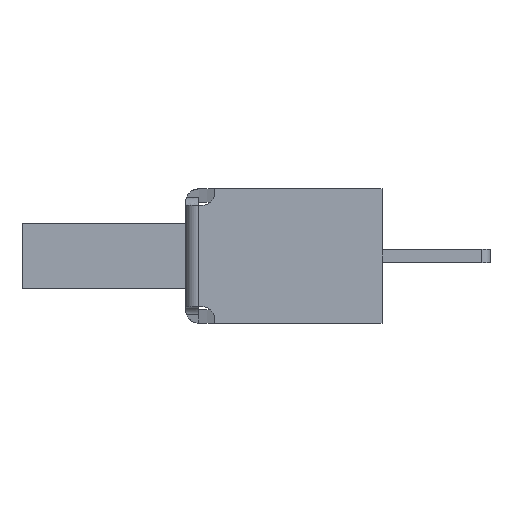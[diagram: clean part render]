
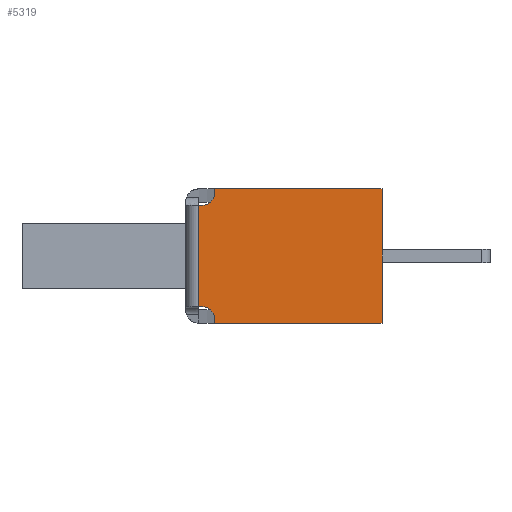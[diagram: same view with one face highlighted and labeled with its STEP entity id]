
A CAD part, left-side view. The second image highlights one B-rep face of the part: STEP entity #5319.
In plain terms, the highlighted planar face has unit normal (-1, 0, 0).
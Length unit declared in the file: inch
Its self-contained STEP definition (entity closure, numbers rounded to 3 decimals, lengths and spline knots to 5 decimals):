
#11 = CARTESIAN_POINT ( 'NONE',  ( 0.67302, -0.44916, 0.06102 ) ) ;
#198 = EDGE_CURVE ( 'NONE', #3820, #5632, #2388, .T. ) ;
#266 = CARTESIAN_POINT ( 'NONE',  ( 0.67302, -0.44916, -0.08071 ) ) ;
#322 = EDGE_CURVE ( 'NONE', #5353, #6336, #5228, .T. ) ;
#336 = CARTESIAN_POINT ( 'NONE',  ( 0.67302, -0.66963, -0.08071 ) ) ;
#345 = VECTOR ( 'NONE', #1707, 39.37008 ) ;
#370 = CARTESIAN_POINT ( 'NONE',  ( 0.67302, -0.46865, -0.06102 ) ) ;
#408 = ORIENTED_EDGE ( 'NONE', *, *, #322, .F. ) ;
#484 = VECTOR ( 'NONE', #5415, 39.37008 ) ;
#488 = EDGE_CURVE ( 'NONE', #4599, #4192, #1396, .T. ) ;
#639 = CARTESIAN_POINT ( 'NONE',  ( 0.67302, -0.4529, 0.07677 ) ) ;
#686 = VECTOR ( 'NONE', #1505, 39.37008 ) ;
#692 = CARTESIAN_POINT ( 'NONE',  ( 0.67302, -0.46865, -0.08071 ) ) ;
#879 = CARTESIAN_POINT ( 'NONE',  ( 0.67302, -0.4529, 0.06102 ) ) ;
#907 = CARTESIAN_POINT ( 'NONE',  ( 0.67302, -0.46865, 0.07677 ) ) ;
#1030 = ORIENTED_EDGE ( 'NONE', *, *, #198, .T. ) ;
#1176 = DIRECTION ( 'NONE',  ( 0., 0., 1. ) ) ;
#1203 = DIRECTION ( 'NONE',  ( 0., 1., 0. ) ) ;
#1274 = DIRECTION ( 'NONE',  ( 0., 0., 1. ) ) ;
#1340 = LINE ( 'NONE', #1715, #2939 ) ;
#1373 = ORIENTED_EDGE ( 'NONE', *, *, #5992, .T. ) ;
#1396 = CIRCLE ( 'NONE', #5175, 0.01575 ) ;
#1412 = VECTOR ( 'NONE', #2065, 39.37008 ) ;
#1442 = CARTESIAN_POINT ( 'NONE',  ( 0.67302, -0.44916, -0.06102 ) ) ;
#1491 = PLANE ( 'NONE',  #2203 ) ;
#1502 = CARTESIAN_POINT ( 'NONE',  ( 0.67302, -0.44916, 0.08071 ) ) ;
#1505 = DIRECTION ( 'NONE',  ( 0., 0., -1. ) ) ;
#1524 = VECTOR ( 'NONE', #1176, 39.37008 ) ;
#1662 = LINE ( 'NONE', #1727, #484 ) ;
#1664 = AXIS2_PLACEMENT_3D ( 'NONE', #6422, #6324, #4230 ) ;
#1675 = EDGE_CURVE ( 'NONE', #2103, #4192, #3084, .T. ) ;
#1683 = CARTESIAN_POINT ( 'NONE',  ( 0.67302, -0.66963, 0.08071 ) ) ;
#1697 = CARTESIAN_POINT ( 'NONE',  ( 0.67302, -0.46865, 0.08071 ) ) ;
#1707 = DIRECTION ( 'NONE',  ( 0., -1., 0. ) ) ;
#1715 = CARTESIAN_POINT ( 'NONE',  ( 0.67302, -0.46865, 0.06102 ) ) ;
#1727 = CARTESIAN_POINT ( 'NONE',  ( 0.67302, -0.46865, -0.06102 ) ) ;
#1890 = VERTEX_POINT ( 'NONE', #1442 ) ;
#2065 = DIRECTION ( 'NONE',  ( 0., -1., 0. ) ) ;
#2103 = VERTEX_POINT ( 'NONE', #6406 ) ;
#2201 = ORIENTED_EDGE ( 'NONE', *, *, #3298, .T. ) ;
#2203 = AXIS2_PLACEMENT_3D ( 'NONE', #3557, #3057, #5615 ) ;
#2283 = DIRECTION ( 'NONE',  ( 1., 0., 0. ) ) ;
#2388 = LINE ( 'NONE', #370, #4961 ) ;
#2419 = CIRCLE ( 'NONE', #1664, 0.01575 ) ;
#2421 = DIRECTION ( 'NONE',  ( 0., 0., -1. ) ) ;
#2555 = ORIENTED_EDGE ( 'NONE', *, *, #4430, .F. ) ;
#2939 = VECTOR ( 'NONE', #1274, 39.37008 ) ;
#3057 = DIRECTION ( 'NONE',  ( 1., 0., 0. ) ) ;
#3084 = LINE ( 'NONE', #11, #1412 ) ;
#3116 = ORIENTED_EDGE ( 'NONE', *, *, #3604, .T. ) ;
#3298 = EDGE_CURVE ( 'NONE', #4532, #6336, #4411, .T. ) ;
#3486 = ORIENTED_EDGE ( 'NONE', *, *, #5385, .F. ) ;
#3557 = CARTESIAN_POINT ( 'NONE',  ( 0.67302, -0.44916, 0.08071 ) ) ;
#3569 = VERTEX_POINT ( 'NONE', #5127 ) ;
#3604 = EDGE_CURVE ( 'NONE', #5632, #4532, #5389, .T. ) ;
#3820 = VERTEX_POINT ( 'NONE', #4502 ) ;
#3965 = CARTESIAN_POINT ( 'NONE',  ( 0.67302, -0.66963, 0.08071 ) ) ;
#4192 = VERTEX_POINT ( 'NONE', #879 ) ;
#4230 = DIRECTION ( 'NONE',  ( 0., 1., 0. ) ) ;
#4411 = LINE ( 'NONE', #1683, #1524 ) ;
#4430 = EDGE_CURVE ( 'NONE', #4599, #5353, #1340, .T. ) ;
#4502 = CARTESIAN_POINT ( 'NONE',  ( 0.67302, -0.46865, -0.07677 ) ) ;
#4532 = VERTEX_POINT ( 'NONE', #336 ) ;
#4587 = LINE ( 'NONE', #6129, #686 ) ;
#4599 = VERTEX_POINT ( 'NONE', #907 ) ;
#4603 = EDGE_CURVE ( 'NONE', #2103, #1890, #4587, .T. ) ;
#4611 = ORIENTED_EDGE ( 'NONE', *, *, #4603, .T. ) ;
#4650 = DIRECTION ( 'NONE',  ( 0., -1., 0. ) ) ;
#4961 = VECTOR ( 'NONE', #2421, 39.37008 ) ;
#5091 = ORIENTED_EDGE ( 'NONE', *, *, #488, .T. ) ;
#5127 = CARTESIAN_POINT ( 'NONE',  ( 0.67302, -0.4529, -0.06102 ) ) ;
#5175 = AXIS2_PLACEMENT_3D ( 'NONE', #639, #2283, #1203 ) ;
#5181 = VECTOR ( 'NONE', #4650, 39.37008 ) ;
#5228 = LINE ( 'NONE', #1502, #5181 ) ;
#5319 = ADVANCED_FACE ( 'NONE', ( #6114 ), #1491, .F. ) ;
#5353 = VERTEX_POINT ( 'NONE', #1697 ) ;
#5385 = EDGE_CURVE ( 'NONE', #3569, #1890, #1662, .T. ) ;
#5389 = LINE ( 'NONE', #266, #345 ) ;
#5415 = DIRECTION ( 'NONE',  ( 0., 1., 0. ) ) ;
#5615 = DIRECTION ( 'NONE',  ( 0., -1., 0. ) ) ;
#5632 = VERTEX_POINT ( 'NONE', #692 ) ;
#5794 = EDGE_LOOP ( 'NONE', ( #3116, #2201, #408, #2555, #5091, #6528, #4611, #3486, #1373, #1030 ) ) ;
#5992 = EDGE_CURVE ( 'NONE', #3569, #3820, #2419, .T. ) ;
#6114 = FACE_OUTER_BOUND ( 'NONE', #5794, .T. ) ;
#6129 = CARTESIAN_POINT ( 'NONE',  ( 0.67302, -0.44916, 0.08071 ) ) ;
#6324 = DIRECTION ( 'NONE',  ( 1., 0., 0. ) ) ;
#6336 = VERTEX_POINT ( 'NONE', #3965 ) ;
#6406 = CARTESIAN_POINT ( 'NONE',  ( 0.67302, -0.44916, 0.06102 ) ) ;
#6422 = CARTESIAN_POINT ( 'NONE',  ( 0.67302, -0.4529, -0.07677 ) ) ;
#6528 = ORIENTED_EDGE ( 'NONE', *, *, #1675, .F. ) ;
